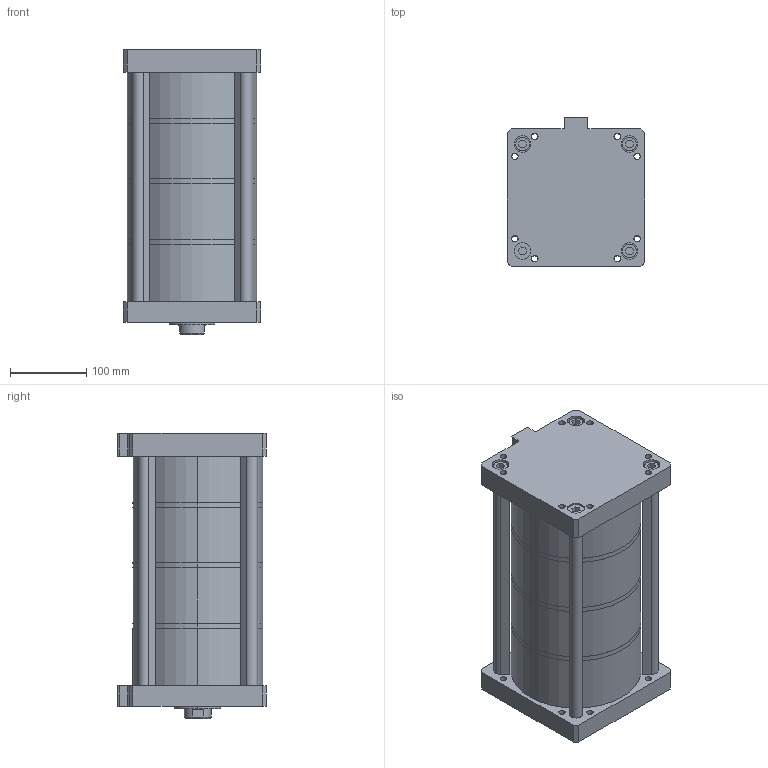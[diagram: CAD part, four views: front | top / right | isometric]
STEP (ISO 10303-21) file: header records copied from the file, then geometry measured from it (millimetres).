
FILE_DESCRIPTION (( 'STEP AP203' ), '1' );
FILE_NAME ('MHK-160-50-F-4.STEP', '2016-03-30T09:35:45', ( 'WIN' ), ( '' ), 'SwSTEP 2.0', 'SolidWorks 2014', '' );
FILE_SCHEMA (( 'CONFIG_CONTROL_DESIGN' ));
Length unit declared in the file: millimetre
Products named in the file (1): MHK-160-50-F-4
Bounding box: 180 x 195 x 373.5 mm (x, y, z)
Volume: 3161154.7 mm3; surface area: 803748.8 mm2
Topology: 3 solids, 4 shells, 334 faces, 818 edges, 522 vertices
Faces by surface type: plane 194, cylinder 130, cone 10
Entity records: 10005 total; most frequent: DIRECTION 1824, CARTESIAN_POINT 1683, ORIENTED_EDGE 1628, EDGE_CURVE 814, AXIS2_PLACEMENT_3D 679, VERTEX_POINT 522, VECTOR 466, LINE 466
